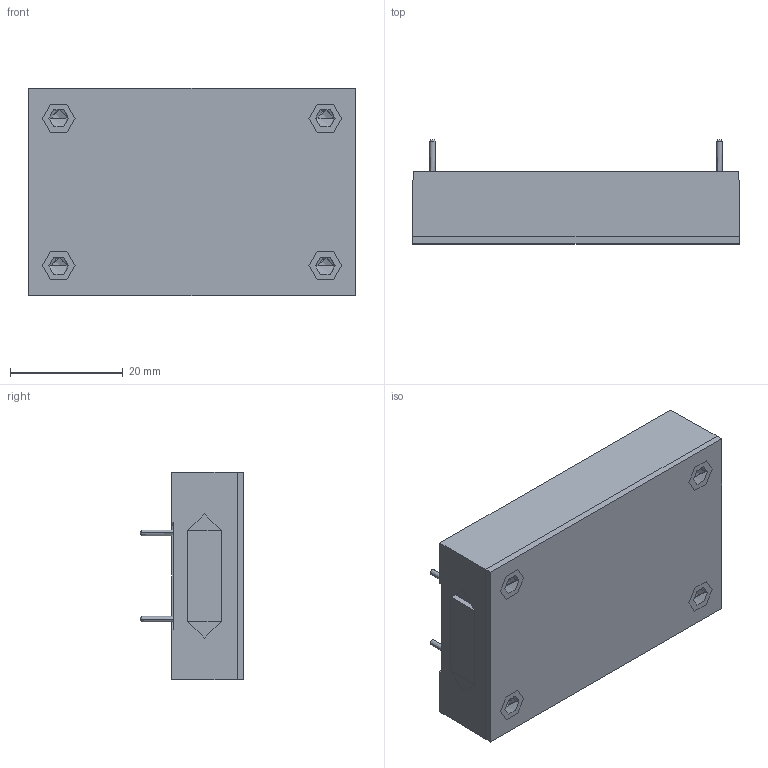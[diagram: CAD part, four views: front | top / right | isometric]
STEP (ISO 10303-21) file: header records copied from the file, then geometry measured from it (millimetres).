
FILE_DESCRIPTION (( 'STEP AP203' ), '1' );
FILE_NAME ('FM05D200P.STEP', '2019-10-01T08:27:56', ( '' ), ( '' ), 'SwSTEP 2.0', 'SolidWorks 2017', '' );
FILE_SCHEMA (( 'CONFIG_CONTROL_DESIGN' ));
Length unit declared in the file: millimetre
Products named in the file (15): CQB75W SINGLE SERIES銅柱(M-C420-01-J)M3 2016,11,22; CQB75W SINGLE SERIES 鋁板(M-C420-01-J) 2016,11,22; FM05D200P 圓PIN加灌膠  2019.10.01; FM05D200P; PKQ75 CASE(M-C116-03-M)G5113710012,G5119510012(CQB100-110S)
Assembly tree (13 placements, depth 3):
  FM05D200P
    CQB75W SINGLE SERIES 鋁板(M-C420-01-J) 2016,11,22
      CQB75W SINGLE SERIES銅柱(M-C420-01-J)M3 2016,11,22
      CQB75W SINGLE SERIES銅柱(M-C420-01-J)M3 2016,11,22
      CQB75W SINGLE SERIES銅柱(M-C420-01-J)M3 2016,11,22
      CQB75W SINGLE SERIES銅柱(M-C420-01-J)M3 2016,11,22
  PKQ75 CASE(M-C116-03-M)G5113710012,G5119510012(CQB100-110S)
  FM05D200P 圓PIN加灌膠  2019.10.01
  CQB75W SINGLE SERIES 鋁板(M-C420-01-J) 2016,11,22
  FM05D200P
    CQB75W SINGLE SERIES 鋁板(M-C420-01-J) 2016,11,22
      CQB75W SINGLE SERIES 鋁板(M-C420-01-J) 2016,11,22
      CQB75W SINGLE SERIES銅柱(M-C420-01-J)M3 2016,11,22  x4
    FM05D200P 圓PIN加灌膠  2019.10.01
    PKQ75 CASE(M-C116-03-M)G5113710012,G5119510012(CQB100-110S)
Bounding box: 57.9 x 18.4 x 36.8 mm (x, y, z)
Volume: 26761.5 mm3; surface area: 20565.9 mm2
Topology: 7 solids, 7 shells, 456 faces, 1250 edges, 832 vertices
Faces by surface type: cylinder 254, plane 134, cone 60, bspline 8
Entity records: 13160 total; most frequent: CARTESIAN_POINT 5496, ORIENTED_EDGE 1328, DIRECTION 1242, EDGE_CURVE 664, AXIS2_PLACEMENT_3D 443, VERTEX_POINT 437, VECTOR 356, LINE 356
